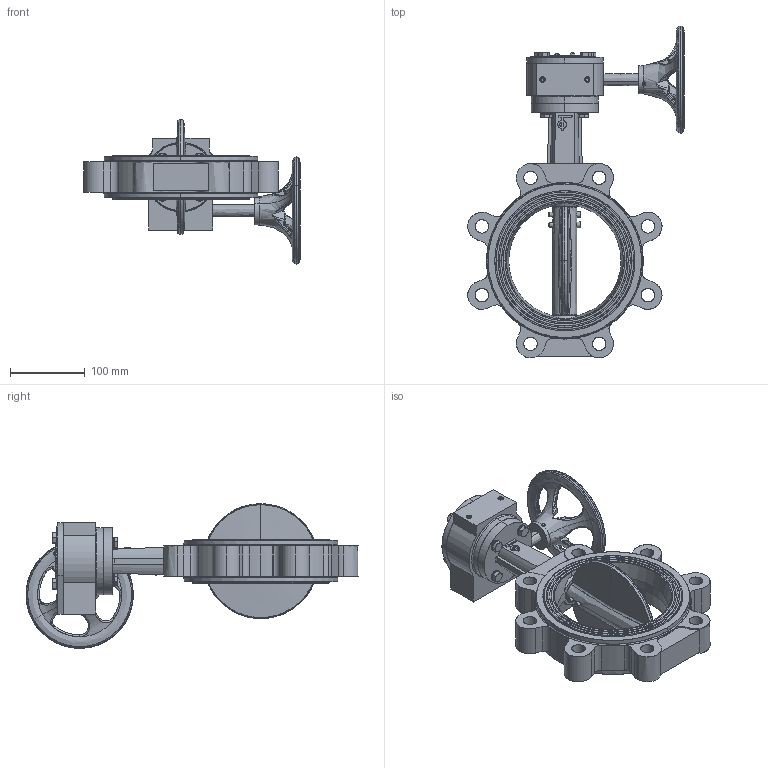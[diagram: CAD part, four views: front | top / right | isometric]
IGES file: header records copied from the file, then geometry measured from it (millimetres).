
Start section: SolidWorks IGES file using analytic representation for surfaces
Global section: file name: H:\BE FABRICATION\BE SERIE\VP\VP SERIE\F072 VPG\plan 3D\VPG-08\LUG\DN150\VPG464X-08XX0150.igs; native system: SolidWorks 2020; preprocessor: SolidWorks 2020; author: k.gigout; date: 220630.101038; units: millimetre
Bounding box: 290.46 x 445.33 x 194.1 mm (x, y, z)
Surface area: 350906.1 mm2 (no closed solid volume)
Topology: 0 solids, 0 shells, 948 faces, 22674 edges, 22662 vertices
Faces by surface type: bspline 658, revolution 290
